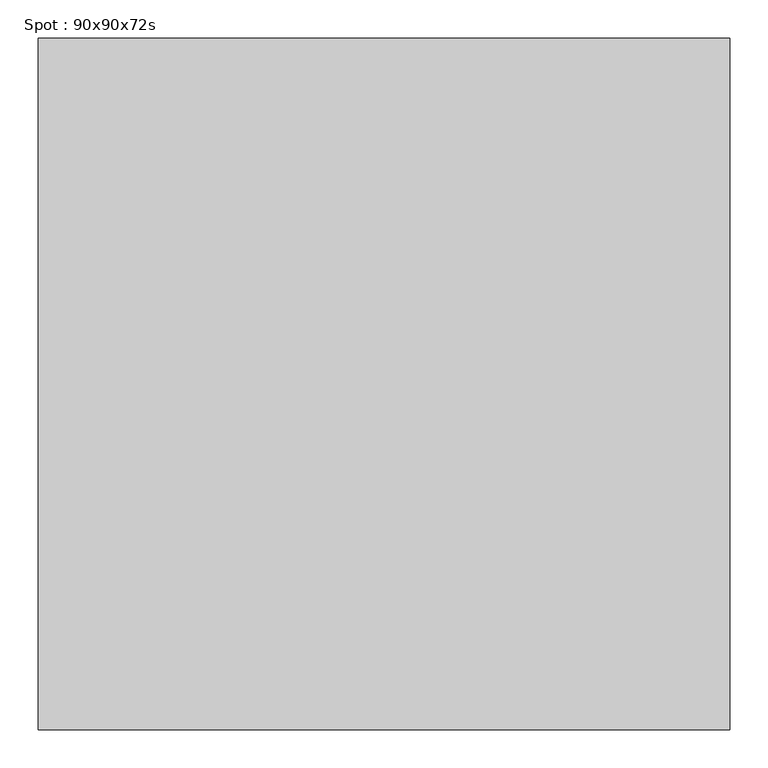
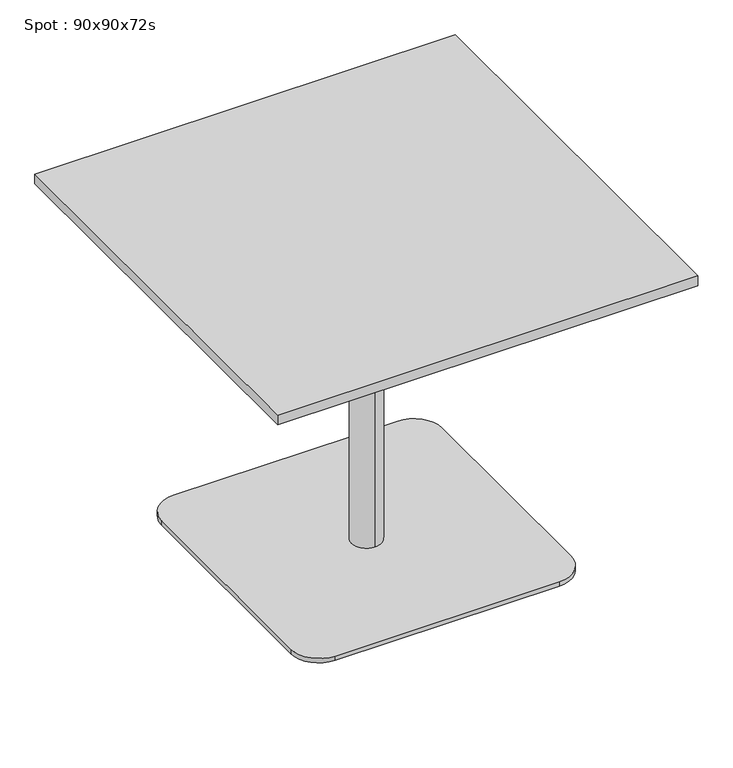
"""IFC4 building model written with IfcOpenShell, lengths in millimetres: furniture geometry, Spot : 90x90x72s."""

import ifcopenshell
import ifcopenshell.guid

model = None  # the IFC model being written
_history = None  # IfcOwnerHistory: only IFC2X3 demands one
_inside = {}  # id of a spatial element -> (the spatial element, [elements in it])
_under = {}  # id of a project, library or spatial element -> (it, [spatial elements below it])
_declared = {}  # id of a project -> (the project, [libraries it declares])
_typed = {}  # id of a type object -> (the type object, [elements of that type])
_made_of = {}  # id of a material, layer set ... -> (it, [elements and type objects made of it])


def new_model(schema):
    """Start an empty IFC model of exactly this schema.

    Asked for "IFC4X3", IfcOpenShell would pick the latest addendum, in which some entities
    have other attributes; the version numbers below select the first issue.
    IFC2X3 requires an IfcOwnerHistory on every rooted entity: one is made here for all.
    """
    global model, _history
    if schema == "IFC4X3":
        model = ifcopenshell.file(schema_version=(4, 3, 0, 0))
    else:
        model = ifcopenshell.file(schema=schema)
    _inside.clear()
    _under.clear()
    _declared.clear()
    _typed.clear()
    _made_of.clear()
    _history = None
    if model.schema == "IFC2X3":
        org = make("IfcOrganization", Name="unknown")
        user = make(
            "IfcPersonAndOrganization",
            ThePerson=make("IfcPerson", FamilyName="unknown"),
            TheOrganization=org,
        )
        app = make(
            "IfcApplication",
            ApplicationDeveloper=org,
            Version="unknown",
            ApplicationFullName="unknown",
            ApplicationIdentifier="unknown",
        )
        _history = make(
            "IfcOwnerHistory",
            OwningUser=user,
            OwningApplication=app,
            ChangeAction="ADDED",
            CreationDate=0,
        )
    return model


def make(cls, **values):
    """One entity of the class cls with the attributes given. An attribute that is None is left unset."""
    return model.create_entity(
        cls, **{name: value for name, value in values.items() if value is not None}
    )


def rooted(cls, **values):
    """An entity with a GlobalId (a new one), such as an element, a storey or a relation."""
    return make(cls, GlobalId=ifcopenshell.guid.new(), OwnerHistory=_history, **values)


def si_unit(unit_type, name, prefix=None):
    """IfcSIUnit, for example si_unit("LENGTHUNIT", "METRE", prefix="MILLI")."""
    return make("IfcSIUnit", UnitType=unit_type, Prefix=prefix, Name=name)


def assignment(units):
    """IfcUnitAssignment: the units of a project."""
    return None if units is None else make("IfcUnitAssignment", Units=units)


def point(xyz):
    """IfcCartesianPoint."""
    return None if xyz is None else make("IfcCartesianPoint", Coordinates=xyz)


def direction(xyz):
    """IfcDirection."""
    return None if xyz is None else make("IfcDirection", DirectionRatios=xyz)


def frame(location, z_axis=None, x_axis=None):
    """IfcAxis2Placement3D, a coordinate frame: its origin and axes. An axis left out is left unset."""
    return make(
        "IfcAxis2Placement3D",
        Location=point(location),
        Axis=direction(z_axis),
        RefDirection=direction(x_axis),
    )


def frame_2d(location, x_axis=None):
    """IfcAxis2Placement2D, a coordinate frame in the plane: its origin and x axis."""
    return make(
        "IfcAxis2Placement2D", Location=point(location), RefDirection=direction(x_axis)
    )


def origin():
    """The frame at (0, 0, 0) with its axes left unset."""
    return frame((0.0, 0.0, 0.0))


def origin_with_axes():
    """The frame at (0, 0, 0) with the z axis (0, 0, 1) and the x axis (1, 0, 0) written out."""
    return frame((0.0, 0.0, 0.0), z_axis=(0.0, 0.0, 1.0), x_axis=(1.0, 0.0, 0.0))


def place(relative_to, where):
    """IfcLocalPlacement: puts the frame where relative to a parent placement (None: the world)."""
    return make(
        "IfcLocalPlacement", PlacementRelTo=relative_to, RelativePlacement=where
    )


def context(
    kind, dimensions, precision=None, world=None, true_north=None, identifier=None
):
    """IfcGeometricRepresentationContext, for example the 3D "Model" context."""
    return make(
        "IfcGeometricRepresentationContext",
        ContextIdentifier=identifier,
        ContextType=kind,
        CoordinateSpaceDimension=dimensions,
        Precision=precision,
        WorldCoordinateSystem=world,
        TrueNorth=true_north,
    )


def project(units=None, contexts=None):
    """IfcProject with its units and contexts."""
    return rooted(
        "IfcProject",
        Name="project",
        RepresentationContexts=contexts,
        UnitsInContext=assignment(units),
    )


def spatial(cls, under=None, at=None, **own):
    """A site, building, storey or space (cls), placed at a placement, below another one or the project."""
    s = rooted(cls, ObjectPlacement=at, **own)
    if under is not None:
        _under.setdefault(under.id(), (under, []))[1].append(s)
    return s


def polyline(points):
    """IfcPolyline through the points."""
    return make("IfcPolyline", Points=[point(p) for p in points])


def circle_curve(where, radius):
    """IfcCircle in the frame where."""
    return make("IfcCircle", Position=where, Radius=radius)


def trimmed(basis, trim1, trim2, sense, master):
    """IfcTrimmedCurve: the piece of a basis curve between two trims."""
    return make(
        "IfcTrimmedCurve",
        BasisCurve=basis,
        Trim1=trim1,
        Trim2=trim2,
        SenseAgreement=sense,
        MasterRepresentation=master,
    )


def segment(curve, same_sense, transition):
    """IfcCompositeCurveSegment."""
    return make(
        "IfcCompositeCurveSegment",
        Transition=transition,
        SameSense=same_sense,
        ParentCurve=curve,
    )


def composite_curve(segments, self_intersect=None):
    """IfcCompositeCurve: segments joined end to end."""
    return make("IfcCompositeCurve", Segments=segments, SelfIntersect=self_intersect)


def outline(outer, holes=None, kind="AREA"):
    """IfcArbitraryClosedProfileDef: a profile drawn as a closed curve; with holes, ...WithVoids."""
    if holes is None:
        return make("IfcArbitraryClosedProfileDef", ProfileType=kind, OuterCurve=outer)
    return make(
        "IfcArbitraryProfileDefWithVoids",
        ProfileType=kind,
        OuterCurve=outer,
        InnerCurves=holes,
    )


def extrude(swept, where, along, depth):
    """IfcExtrudedAreaSolid: the profile swept, set in the frame where, extruded along a direction by depth."""
    return make(
        "IfcExtrudedAreaSolid",
        SweptArea=swept,
        Position=where,
        ExtrudedDirection=direction(along),
        Depth=depth,
    )


def shape(context_of_items, identifier, shape_type, items):
    """IfcShapeRepresentation: the items that make up one representation, for example the "Body"."""
    return make(
        "IfcShapeRepresentation",
        ContextOfItems=context_of_items,
        RepresentationIdentifier=identifier,
        RepresentationType=shape_type,
        Items=items,
    )


def source(mapping_origin, context_of_items, identifier, shape_type, items):
    """IfcRepresentationMap: a shape defined once, which mapped items show again and again."""
    return make(
        "IfcRepresentationMap",
        MappingOrigin=mapping_origin,
        MappedRepresentation=shape(context_of_items, identifier, shape_type, items),
    )


def transform(
    local_origin,
    x_axis=None,
    y_axis=None,
    z_axis=None,
    scale=None,
    scale2=None,
    scale3=None,
    uniform=True,
):
    """IfcCartesianTransformationOperator3D, or its non-uniform kind. x_axis, y_axis, z_axis: its Axis1, 2, 3."""
    if uniform:
        return make(
            "IfcCartesianTransformationOperator3D",
            Axis1=direction(x_axis),
            Axis2=direction(y_axis),
            LocalOrigin=point(local_origin),
            Scale=scale,
            Axis3=direction(z_axis),
        )
    return make(
        "IfcCartesianTransformationOperator3DnonUniform",
        Axis1=direction(x_axis),
        Axis2=direction(y_axis),
        LocalOrigin=point(local_origin),
        Scale=scale,
        Axis3=direction(z_axis),
        Scale2=scale2,
        Scale3=scale3,
    )


def mapped(mapping_source, mapping_target):
    """IfcMappedItem: shows the shape of a source again, moved by a transform."""
    return make(
        "IfcMappedItem", MappingSource=mapping_source, MappingTarget=mapping_target
    )


def made_of(thing, what):
    """Note that an element or type object is made of a material, layer set ...; save() writes the relation."""
    if what is not None:
        _made_of.setdefault(what.id(), (what, []))[1].append(thing)
    return thing


def element(
    cls,
    number,
    at=None,
    inside=None,
    cuts=None,
    type_object=None,
    material=None,
    context=None,
    identifier="Body",
    shape_type=None,
    held_by="IfcProductDefinitionShape",
    body=None,
    shapes=None,
    **own,
):
    """One element of the class cls, such as IfcWall. Its Tag is "e" and its number.

    at: its placement. inside: the storey or other place that contains it. cuts: it is an
    opening in that element (IfcRelVoidsElement). A single representation is given by context,
    identifier, shape_type and body (its items); several are given by shapes. held_by: the class
    of the entity that holds the representations. save() writes the other relations.
    """
    e = rooted(cls, Tag="e%d" % number, ObjectPlacement=at, **own)
    if body is not None:
        shapes = [shape(context, identifier, shape_type, body)]
    if shapes is not None:
        e.Representation = make(held_by, Representations=shapes)
    if inside is not None:
        _inside.setdefault(inside.id(), (inside, []))[1].append(e)
    if cuts is not None:
        rooted(
            "IfcRelVoidsElement", RelatingBuildingElement=cuts, RelatedOpeningElement=e
        )
    if type_object is not None:
        _typed.setdefault(type_object.id(), (type_object, []))[1].append(e)
    return made_of(e, material)


def aggregate(whole, parts):
    """IfcRelAggregates: a whole, such as a stair, and the parts it consists of."""
    return rooted("IfcRelAggregates", RelatingObject=whole, RelatedObjects=parts)


def save(model, path):
    """Write the relations noted so far, then the file.

    IfcRelAggregates (storeys below a building ...), IfcRelContainedInSpatialStructure (elements
    in a storey), IfcRelDefinesByType, IfcRelAssociatesMaterial and IfcRelDeclares: one each for
    every whole, place, type object, material and project.
    """
    for whole, parts in _under.values():
        aggregate(whole, parts)
    for where, things in _inside.values():
        rooted(
            "IfcRelContainedInSpatialStructure",
            RelatedElements=things,
            RelatingStructure=where,
        )
    for kind, things in _typed.values():
        rooted("IfcRelDefinesByType", RelatedObjects=things, RelatingType=kind)
    for what, things in _made_of.values():
        rooted("IfcRelAssociatesMaterial", RelatedObjects=things, RelatingMaterial=what)
    for by, libraries in _declared.values():
        rooted("IfcRelDeclares", RelatingContext=by, RelatedDefinitions=libraries)
    model.write(path)


def plane_surface(at):
    """IfcPlane: the flat surface through the origin of the frame at, square to its z axis."""
    return make("IfcPlane", Position=at)


def cylinder_surface(at, radius):
    """IfcCylindricalSurface: all points at the distance radius from the z axis of the frame at."""
    return make("IfcCylindricalSurface", Position=at, Radius=radius)


def revolved_surface(curve, axis_point, axis_direction):
    """IfcSurfaceOfRevolution: the curve turned about the line through axis_point along axis_direction."""
    return make(
        "IfcSurfaceOfRevolution",
        SweptCurve=make("IfcArbitraryOpenProfileDef", ProfileType="CURVE", Curve=curve),
        AxisPosition=make("IfcAxis1Placement", Location=point(axis_point), Axis=direction(axis_direction)),
    )


def advanced_brep(points, edges, surfaces, faces):
    """IfcAdvancedBrep: a solid bounded by faces that lie on surfaces and meet in shared edges.

    An edge is (start, end): straight between two places in points (the first is 0);
    or (start, end, curve); or (start, end, curve, False) where it runs against its curve.
    A face is (place in surfaces, loops), or (place, loops, False) where it looks against
    its surface's normal. A loop lists edges by number (the first is 1), with a minus sign
    where the edge is run from its end to its start. The first loop is the outer one.
    """
    corners = [point(p) for p in points]
    vertices = [make("IfcVertexPoint", VertexGeometry=c) for c in corners]
    made = []
    for start, end, *more in edges:
        made.append(
            make(
                "IfcEdgeCurve",
                EdgeStart=vertices[start],
                EdgeEnd=vertices[end],
                EdgeGeometry=more[0] if more else make("IfcPolyline", Points=[corners[start], corners[end]]),
                SameSense=more[1] if len(more) > 1 else True,
            )
        )
    hull = []
    for where, loops, *sense in faces:
        bounds = []
        for j, loop in enumerate(loops):
            ring = [make("IfcOrientedEdge", EdgeElement=made[abs(k) - 1], Orientation=k > 0) for k in loop]
            bounds.append(
                make(
                    "IfcFaceOuterBound" if j == 0 else "IfcFaceBound",
                    Bound=make("IfcEdgeLoop", EdgeList=ring),
                    Orientation=True,
                )
            )
        hull.append(make("IfcAdvancedFace", Bounds=bounds, FaceSurface=surfaces[where], SameSense=sense[0] if sense else True))
    return make("IfcAdvancedBrep", Outer=make("IfcClosedShell", CfsFaces=hull))


def spot_90x90x72s_e86aca1a(model_context):
    return source(origin(), model_context, "Body", "SolidModel", [
        extrude(outline(polyline([(450.0, 450.0), (450.0, -450.0), (-450.0, -450.0), (-450.0, 450.0), (450.0, 450.0)])), frame((0.0, 0.0, 698.0), z_axis=(0.0, 0.0, 1.0), x_axis=(1.0, 0.0, 0.0)), (0.0, 0.0, 1.0), 22.0),
        extrude(outline(composite_curve([segment(trimmed(circle_curve(frame_2d((240.0, 240.0)), 60.0), [point((240.0, 300.0))], [point((300.0, 240.0))], False, "CARTESIAN"), True, "CONTINUOUS"), segment(polyline([(300.0, 240.0), (300.0, -240.0)]), True, "CONTINUOUS"), segment(trimmed(circle_curve(frame_2d((240.0, -240.0)), 60.0), [point((300.0, -240.0))], [point((240.0, -300.0))], False, "CARTESIAN"), True, "CONTINUOUS"), segment(polyline([(240.0, -300.0), (-240.0, -300.0)]), True, "CONTINUOUS"), segment(trimmed(circle_curve(frame_2d((-240.0, -240.0)), 60.0), [point((-240.0, -300.0))], [point((-300.0, -240.0))], False, "CARTESIAN"), True, "CONTINUOUS"), segment(polyline([(-300.0, -240.0), (-300.0, 240.0)]), True, "CONTINUOUS"), segment(trimmed(circle_curve(frame_2d((-240.0, 240.0)), 60.0), [point((-300.0, 240.0))], [point((-240.0, 300.0))], False, "CARTESIAN"), True, "CONTINUOUS"), segment(polyline([(-240.0, 300.0), (240.0, 300.0)]), True, "CONTINUOUS")], self_intersect=False)), origin_with_axes(), (0.0, 0.0, 1.0), 10.0),
        advanced_brep(
        [(0.0, 32.0, 10.0), (0.0, -32.0, 10.0), (0.0, -32.0, 667.406916), (0.0, 32.0, 667.406916), (0.0, 0.0, 10.0), (0.0, 150.0, 698.0), (0.0, -150.0, 698.0), (0.0, 0.0, 698.0), (0.0, 150.0, 686.7213673), (0.0, -150.0, 686.7213673)],
        [
            (0, 1, circle_curve(frame((0.0, 0.0, 10.0), z_axis=(0.0, 0.0, 1.0), x_axis=(0.0, -1.0, 0.0)), 32.0)),
            (1, 2),
            (2, 3, circle_curve(frame((0.0, 0.0, 667.406916), z_axis=(0.0, 0.0, -1.0), x_axis=(0.0, -1.0, 0.0)), 32.0)),
            (3, 0),
            (1, 0, circle_curve(frame((0.0, 0.0, 10.0), z_axis=(0.0, 0.0, 1.0), x_axis=(0.0, -1.0, 0.0)), 32.0)),
            (3, 2, circle_curve(frame((0.0, 0.0, 667.406916), z_axis=(0.0, 0.0, -1.0), x_axis=(0.0, -1.0, 0.0)), 32.0)),
            (4, 1),
            (0, 4),
            (5, 6, circle_curve(frame((0.0, 0.0, 698.0), z_axis=(0.0, 0.0, 1.0), x_axis=(0.0, -1.0, 0.0)), 150.0)),
            (6, 7),
            (7, 5),
            (6, 5, circle_curve(frame((0.0, 0.0, 698.0), z_axis=(0.0, 0.0, 1.0), x_axis=(0.0, -1.0, 0.0)), 150.0)),
            (8, 9, circle_curve(frame((0.0, 0.0, 686.7213673), z_axis=(0.0, 0.0, 1.0), x_axis=(0.0, -1.0, 0.0)), 150.0)),
            (9, 6),
            (5, 8),
            (9, 8, circle_curve(frame((0.0, 0.0, 686.7213673), z_axis=(0.0, 0.0, 1.0), x_axis=(0.0, -1.0, 0.0)), 150.0)),
            (2, 9),
            (8, 3),
        ],
        [
            cylinder_surface(frame((0.0, 0.0, 1060.0), z_axis=(0.0, 0.0, -1.0), x_axis=(0.0, -1.0, 0.0)), 32.0),
            plane_surface(frame((0.0, 0.0, 10.0), z_axis=(0.0, 0.0, -1.0), x_axis=(0.0, -1.0, 0.0))),
            plane_surface(frame((0.0, 0.0, 698.0), z_axis=(0.0, 0.0, 1.0), x_axis=(0.0, -1.0, 0.0))),
            cylinder_surface(frame((0.0, 0.0, 1060.0), z_axis=(0.0, 0.0, -1.0), x_axis=(0.0, -1.0, 0.0)), 150.0),
            revolved_surface(polyline([(0.0, -150.0, 686.7213673), (0.0, -32.0, 667.406916)]), (0.0, 0.0, 1060.0), (0.0, 0.0, -1.0)),
        ],
        [
            (0, [[1, 2, 3, 4]]),
            (0, [[5, -4, 6, -2]]),
            (1, [[7, -1, 8]]),
            (1, [[-8, -5, -7]]),
            (2, [[9, 10, 11]]),
            (2, [[12, -11, -10]]),
            (3, [[13, 14, -9, 15]]),
            (3, [[16, -15, -12, -14]]),
            (4, [[-3, 17, -13, 18]]),
            (4, [[-6, -18, -16, -17]]),
        ],
    ),
        extrude(outline(polyline([(0.0, 0.0), (-20.0, 0.0), (-20.0, 20.0), (0.0, 20.0), (0.0, 0.0)])), origin_with_axes(), (0.0, 0.0, 1.0), 10.0),
    ])


if __name__ == "__main__":
    model = new_model("IFC4")
    model_context = context("Model", 3, world=origin())
    ifc_project = project(units=[si_unit("LENGTHUNIT", "METRE", prefix="MILLI")], contexts=[model_context])
    site = spatial("IfcSite", under=ifc_project)
    building = spatial("IfcBuilding", under=site)
    placement = place(None, origin())
    spot_90x90x72s_shape = spot_90x90x72s_e86aca1a(model_context)
    element("IfcFurniture", 1, ObjectType="Spot : 90x90x72s", at=placement, inside=building, context=model_context, shape_type="MappedRepresentation", body=[
        mapped(spot_90x90x72s_shape, transform((0.0, 0.0, 0.0), x_axis=(1.0, 0.0, 0.0), y_axis=(0.0, 1.0, 0.0), z_axis=(0.0, 0.0, 1.0))),
    ])
    save(model, "model.ifc")
